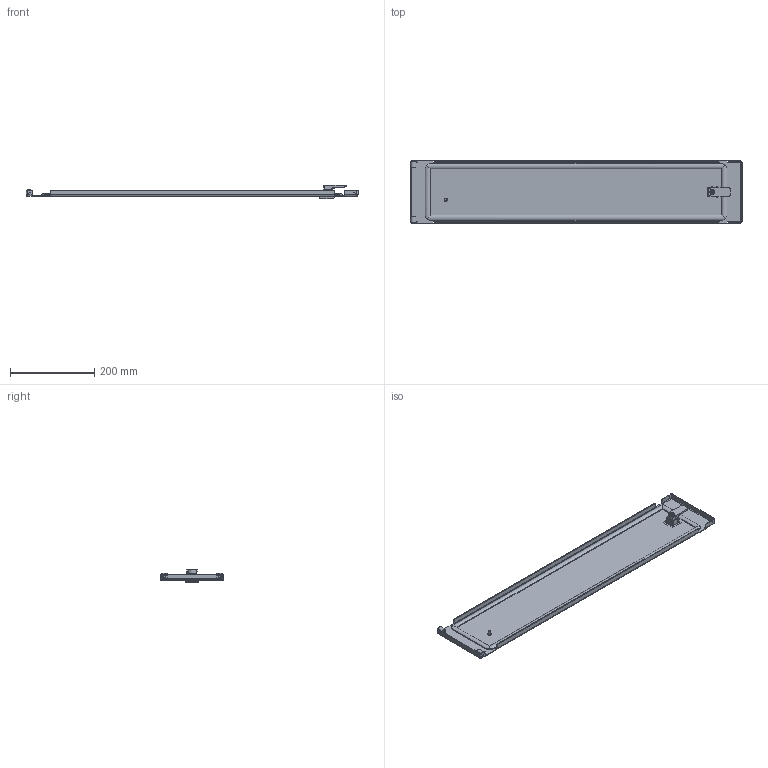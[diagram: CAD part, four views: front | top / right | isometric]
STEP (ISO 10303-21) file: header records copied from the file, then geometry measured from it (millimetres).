
FILE_DESCRIPTION(('STEP AP203'), '1');
FILE_NAME('Äâåðü ñåêöèîííàÿ 150õ800 ìì OptiBox M 419350 ÊÝÀÇ', '', ('UNSPECIFIED'), ('UNSPECIFIED'), 'C3D Converter', 'C3D Toolkit', '');
FILE_SCHEMA(('CONFIG_CONTROL_DESIGN'));
Length unit declared in the file: millimetre
Bounding box: 786.4 x 147 x 32.2 mm (x, y, z)
Volume: 362406.6 mm3; surface area: 332632.2 mm2
Topology: 6 solids, 6 shells, 355 faces, 928 edges, 588 vertices
Faces by surface type: plane 252, cylinder 92, bspline 8, cone 2, torus 1
Full cylindrical faces by diameter (mm): 0.75 x1, 1 x1, 3 x1, 5 x2, 6 x1, 7.5 x1, 9.3 x1, 10 x1, 20 x1
Entity records: 11864 total; most frequent: CARTESIAN_POINT 3095, ORIENTED_EDGE 1830, DIRECTION 1731, EDGE_CURVE 915, LINE 705, VECTOR 705, VERTEX_POINT 588, AXIS2_PLACEMENT_3D 513
